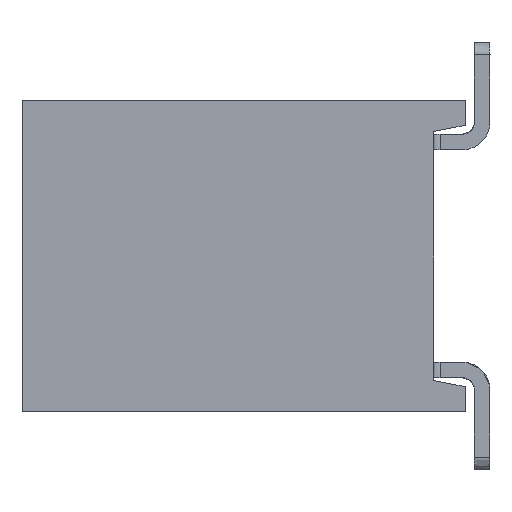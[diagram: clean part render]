
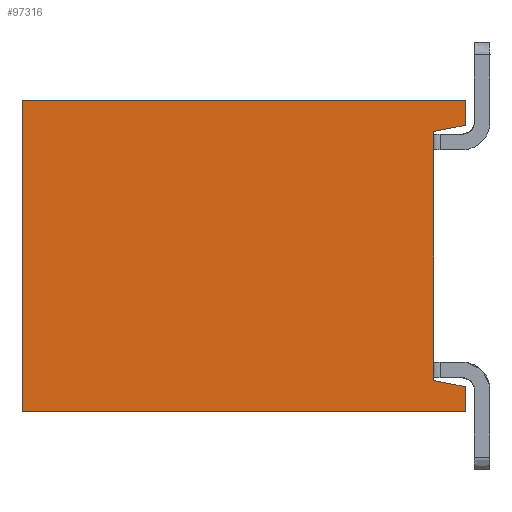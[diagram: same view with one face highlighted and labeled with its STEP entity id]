
A CAD part, left-side view. The second image highlights one B-rep face of the part: STEP entity #97316.
In plain terms, the highlighted planar face has unit normal (-1, 0, 0).
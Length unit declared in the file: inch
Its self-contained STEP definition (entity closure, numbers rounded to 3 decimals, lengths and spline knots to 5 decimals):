
#384 = VERTEX_POINT ( 'NONE', #69146 ) ;
#5533 = DIRECTION ( 'NONE',  ( 0., 0., 1. ) ) ;
#6459 = VERTEX_POINT ( 'NONE', #67992 ) ;
#7127 = LINE ( 'NONE', #70828, #106327 ) ;
#8353 = PLANE ( 'NONE',  #45313 ) ;
#9549 = FACE_OUTER_BOUND ( 'NONE', #49388, .T. ) ;
#12568 = VERTEX_POINT ( 'NONE', #85622 ) ;
#12800 = VECTOR ( 'NONE', #70400, 39.37008 ) ;
#17767 = EDGE_CURVE ( 'NONE', #6459, #89201, #84246, .T. ) ;
#20752 = VECTOR ( 'NONE', #55736, 39.37008 ) ;
#23390 = CARTESIAN_POINT ( 'NONE',  ( 0., 0., -0.19685 ) ) ;
#25223 = LINE ( 'NONE', #92550, #99619 ) ;
#27105 = DIRECTION ( 'NONE',  ( 0., 0.981, 0.196 ) ) ;
#27146 = DIRECTION ( 'NONE',  ( 0., 0., 1. ) ) ;
#27333 = EDGE_CURVE ( 'NONE', #90688, #384, #117093, .T. ) ;
#27398 = EDGE_CURVE ( 'NONE', #59686, #6459, #111272, .T. ) ;
#29243 = CARTESIAN_POINT ( 'NONE',  ( 0., -0.25984, -0.01988 ) ) ;
#29585 = CARTESIAN_POINT ( 'NONE',  ( 0., -0.28512, -0.19685 ) ) ;
#32167 = DIRECTION ( 'NONE',  ( 0., 0., 1. ) ) ;
#34713 = VECTOR ( 'NONE', #32167, 39.37008 ) ;
#34928 = ORIENTED_EDGE ( 'NONE', *, *, #112792, .T. ) ;
#39838 = VECTOR ( 'NONE', #94838, 39.37008 ) ;
#40619 = LINE ( 'NONE', #60973, #12800 ) ;
#40736 = CARTESIAN_POINT ( 'NONE',  ( 0., -0.25984, -0.20079 ) ) ;
#41108 = EDGE_CURVE ( 'NONE', #89201, #12568, #93101, .T. ) ;
#41577 = CARTESIAN_POINT ( 'NONE',  ( 0., -0.27953, 0.00394 ) ) ;
#43551 = ORIENTED_EDGE ( 'NONE', *, *, #94592, .T. ) ;
#43836 = CARTESIAN_POINT ( 'NONE',  ( 0., 0., 0. ) ) ;
#45313 = AXIS2_PLACEMENT_3D ( 'NONE', #73639, #82999, #27146 ) ;
#49388 = EDGE_LOOP ( 'NONE', ( #98197, #83239, #34928, #43551, #53393, #80358, #117299, #103536 ) ) ;
#50102 = DIRECTION ( 'NONE',  ( 0., 0., 1. ) ) ;
#52932 = CARTESIAN_POINT ( 'NONE',  ( 0., -0.27953, -0.01594 ) ) ;
#53393 = ORIENTED_EDGE ( 'NONE', *, *, #27333, .F. ) ;
#55736 = DIRECTION ( 'NONE',  ( 0., -1., 0. ) ) ;
#59686 = VERTEX_POINT ( 'NONE', #23390 ) ;
#60692 = EDGE_CURVE ( 'NONE', #12568, #113870, #86427, .T. ) ;
#60973 = CARTESIAN_POINT ( 'NONE',  ( 0., -0.25984, -0.01988 ) ) ;
#67992 = CARTESIAN_POINT ( 'NONE',  ( 0., -0.27953, -0.19685 ) ) ;
#69146 = CARTESIAN_POINT ( 'NONE',  ( 0., -0.27953, 0. ) ) ;
#69772 = CARTESIAN_POINT ( 'NONE',  ( 0., -0.27953, -0.18091 ) ) ;
#70400 = DIRECTION ( 'NONE',  ( 0., -0.981, 0.196 ) ) ;
#70828 = CARTESIAN_POINT ( 'NONE',  ( 0., -0.27953, 0.00394 ) ) ;
#73639 = CARTESIAN_POINT ( 'NONE',  ( 0., -0.28512, -0.20079 ) ) ;
#78636 = EDGE_CURVE ( 'NONE', #59686, #90688, #25223, .T. ) ;
#80358 = ORIENTED_EDGE ( 'NONE', *, *, #78636, .F. ) ;
#80598 = VECTOR ( 'NONE', #50102, 39.37008 ) ;
#82960 = CARTESIAN_POINT ( 'NONE',  ( 0., -0.28026, -0.18105 ) ) ;
#82999 = DIRECTION ( 'NONE',  ( -1., 0., 0. ) ) ;
#83239 = ORIENTED_EDGE ( 'NONE', *, *, #60692, .T. ) ;
#84246 = LINE ( 'NONE', #41577, #34713 ) ;
#85622 = CARTESIAN_POINT ( 'NONE',  ( 0., -0.25984, -0.17697 ) ) ;
#86427 = LINE ( 'NONE', #40736, #80598 ) ;
#89201 = VERTEX_POINT ( 'NONE', #69772 ) ;
#90688 = VERTEX_POINT ( 'NONE', #43836 ) ;
#92550 = CARTESIAN_POINT ( 'NONE',  ( 0., 0., 0.00394 ) ) ;
#93101 = LINE ( 'NONE', #82960, #96011 ) ;
#94592 = EDGE_CURVE ( 'NONE', #98588, #384, #7127, .T. ) ;
#94838 = DIRECTION ( 'NONE',  ( 0., -1., 0. ) ) ;
#96011 = VECTOR ( 'NONE', #27105, 39.37008 ) ;
#97316 = ADVANCED_FACE ( 'NONE', ( #9549 ), #8353, .T. ) ;
#98197 = ORIENTED_EDGE ( 'NONE', *, *, #41108, .T. ) ;
#98588 = VERTEX_POINT ( 'NONE', #52932 ) ;
#99619 = VECTOR ( 'NONE', #110866, 39.37008 ) ;
#103536 = ORIENTED_EDGE ( 'NONE', *, *, #17767, .T. ) ;
#106327 = VECTOR ( 'NONE', #5533, 39.37008 ) ;
#110866 = DIRECTION ( 'NONE',  ( 0., 0., 1. ) ) ;
#111272 = LINE ( 'NONE', #29585, #39838 ) ;
#111570 = CARTESIAN_POINT ( 'NONE',  ( 0., -0.28512, 0. ) ) ;
#112792 = EDGE_CURVE ( 'NONE', #113870, #98588, #40619, .T. ) ;
#113870 = VERTEX_POINT ( 'NONE', #29243 ) ;
#117093 = LINE ( 'NONE', #111570, #20752 ) ;
#117299 = ORIENTED_EDGE ( 'NONE', *, *, #27398, .T. ) ;
